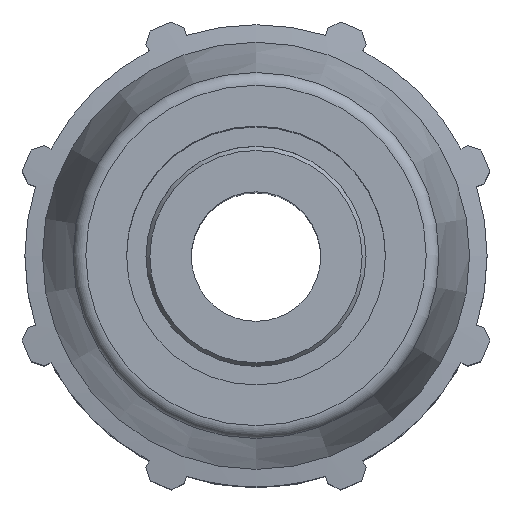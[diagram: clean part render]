
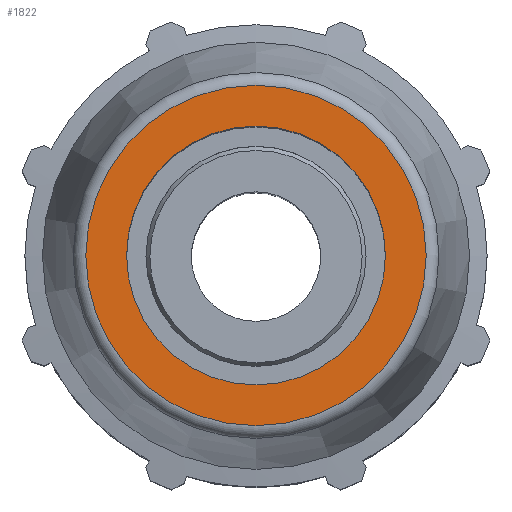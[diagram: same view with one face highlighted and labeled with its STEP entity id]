
A CAD part, top view. The second image highlights one B-rep face of the part: STEP entity #1822.
In plain terms, the highlighted planar face has unit normal (0, 0, 1).
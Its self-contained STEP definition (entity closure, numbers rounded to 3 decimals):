
#308=FACE_BOUND('',#472,.T.);
#324=PLANE('',#1949);
#373=FACE_OUTER_BOUND('',#471,.T.);
#471=EDGE_LOOP('',(#1241,#1242));
#472=EDGE_LOOP('',(#1243,#1244));
#587=CIRCLE('',#1946,32.876);
#588=CIRCLE('',#1947,32.876);
#590=CIRCLE('',#1950,25.);
#591=CIRCLE('',#1951,25.);
#739=VERTEX_POINT('',#2807);
#740=VERTEX_POINT('',#2809);
#741=VERTEX_POINT('',#2814);
#742=VERTEX_POINT('',#2815);
#947=EDGE_CURVE('',#739,#740,#587,.T.);
#948=EDGE_CURVE('',#740,#739,#588,.T.);
#950=EDGE_CURVE('',#741,#742,#590,.T.);
#951=EDGE_CURVE('',#742,#741,#591,.T.);
#1241=ORIENTED_EDGE('',*,*,#948,.F.);
#1242=ORIENTED_EDGE('',*,*,#947,.F.);
#1243=ORIENTED_EDGE('',*,*,#950,.T.);
#1244=ORIENTED_EDGE('',*,*,#951,.T.);
#1822=ADVANCED_FACE('',(#373,#308),#324,.T.);
#1946=AXIS2_PLACEMENT_3D('',#2810,#2202,#2203);
#1947=AXIS2_PLACEMENT_3D('',#2811,#2204,#2205);
#1949=AXIS2_PLACEMENT_3D('',#2813,#2208,#2209);
#1950=AXIS2_PLACEMENT_3D('',#2816,#2210,#2211);
#1951=AXIS2_PLACEMENT_3D('',#2817,#2212,#2213);
#2202=DIRECTION('center_axis',(0.,0.,-1.));
#2203=DIRECTION('ref_axis',(0.,-1.,0.));
#2204=DIRECTION('center_axis',(0.,0.,-1.));
#2205=DIRECTION('ref_axis',(0.,-1.,0.));
#2208=DIRECTION('center_axis',(0.,0.,1.));
#2209=DIRECTION('ref_axis',(1.,0.,0.));
#2210=DIRECTION('center_axis',(0.,0.,-1.));
#2211=DIRECTION('ref_axis',(1.,0.,0.));
#2212=DIRECTION('center_axis',(0.,0.,-1.));
#2213=DIRECTION('ref_axis',(1.,0.,0.));
#2807=CARTESIAN_POINT('',(32.876,0.,0.));
#2809=CARTESIAN_POINT('',(0.,32.876,0.));
#2810=CARTESIAN_POINT('Origin',(0.,0.,0.));
#2811=CARTESIAN_POINT('Origin',(0.,0.,0.));
#2813=CARTESIAN_POINT('Origin',(0.,34.982,0.));
#2814=CARTESIAN_POINT('',(0.,25.,0.));
#2815=CARTESIAN_POINT('',(0.,-25.,0.));
#2816=CARTESIAN_POINT('Origin',(0.,0.,0.));
#2817=CARTESIAN_POINT('Origin',(0.,0.,0.));
